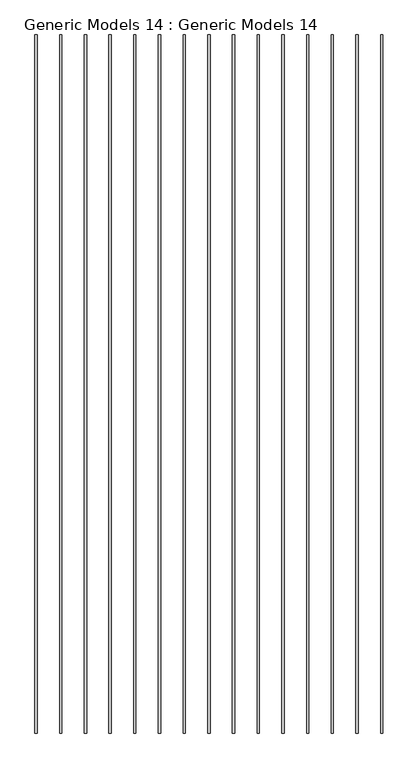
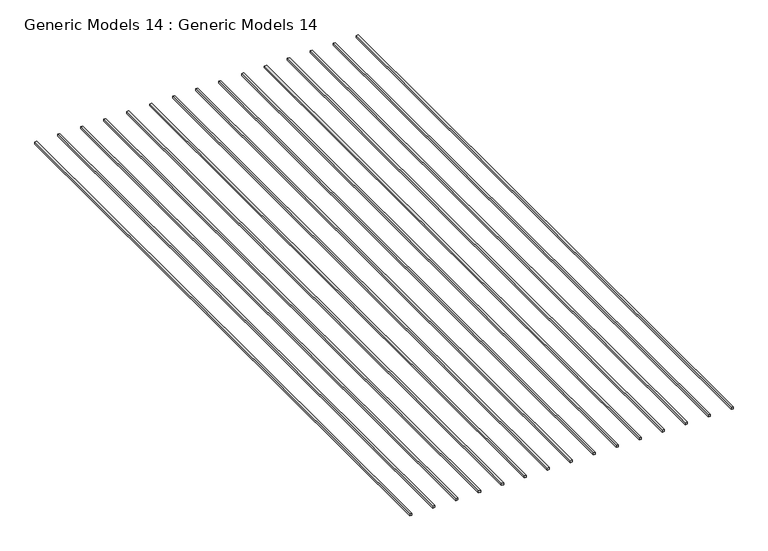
"""IFC4 building model written with IfcOpenShell, lengths in millimetres: proxy geometry, Generic Models 14 : Generic Models 14."""

from ifc_helpers import new_model, si_unit, frame, origin, place, context, project, spatial, polyline, outline, extrude, source, transform, mapped, element, save


def generic_models_14_generic_models_14_00bfee29(model_context):
    return source(origin(), model_context, "Body", "SweptSolid", [
        extrude(outline(polyline([(25045.3362243, 16205.264194), (25145.3362243, 16205.264194), (25145.3362243, -14894.735806), (25045.3362243, -14894.735806), (25045.3362243, 16205.264194)])), frame((0.0, 0.0, 5000.0), z_axis=(0.0, 0.0, 1.0), x_axis=(1.0, 0.0, 0.0)), (0.0, 0.0, 1.0), 100.0),
        extrude(outline(polyline([(23945.3362243, 16205.264194), (24045.3362243, 16205.264194), (24045.3362243, -14894.735806), (23945.3362243, -14894.735806), (23945.3362243, 16205.264194)])), frame((0.0, 0.0, 5000.0), z_axis=(0.0, 0.0, 1.0), x_axis=(1.0, 0.0, 0.0)), (0.0, 0.0, 1.0), 100.0),
        extrude(outline(polyline([(22845.3362243, 16205.264194), (22945.3362243, 16205.264194), (22945.3362243, -14894.735806), (22845.3362243, -14894.735806), (22845.3362243, 16205.264194)])), frame((0.0, 0.0, 5000.0), z_axis=(0.0, 0.0, 1.0), x_axis=(1.0, 0.0, 0.0)), (0.0, 0.0, 1.0), 100.0),
        extrude(outline(polyline([(21745.3362243, 16205.264194), (21845.3362243, 16205.264194), (21845.3362243, -14894.735806), (21745.3362243, -14894.735806), (21745.3362243, 16205.264194)])), frame((0.0, 0.0, 5000.0), z_axis=(0.0, 0.0, 1.0), x_axis=(1.0, 0.0, 0.0)), (0.0, 0.0, 1.0), 100.0),
        extrude(outline(polyline([(20645.3362243, 16205.264194), (20745.3362243, 16205.264194), (20745.3362243, -14894.735806), (20645.3362243, -14894.735806), (20645.3362243, 16205.264194)])), frame((0.0, 0.0, 5000.0), z_axis=(0.0, 0.0, 1.0), x_axis=(1.0, 0.0, 0.0)), (0.0, 0.0, 1.0), 100.0),
        extrude(outline(polyline([(19545.3362243, 16205.264194), (19645.3362243, 16205.264194), (19645.3362243, -14894.735806), (19545.3362243, -14894.735806), (19545.3362243, 16205.264194)])), frame((0.0, 0.0, 5000.0), z_axis=(0.0, 0.0, 1.0), x_axis=(1.0, 0.0, 0.0)), (0.0, 0.0, 1.0), 100.0),
        extrude(outline(polyline([(18445.3362243, 16205.264194), (18545.3362243, 16205.264194), (18545.3362243, -14894.735806), (18445.3362243, -14894.735806), (18445.3362243, 16205.264194)])), frame((0.0, 0.0, 5000.0), z_axis=(0.0, 0.0, 1.0), x_axis=(1.0, 0.0, 0.0)), (0.0, 0.0, 1.0), 100.0),
        extrude(outline(polyline([(17345.3362243, 16205.264194), (17445.3362243, 16205.264194), (17445.3362243, -14894.735806), (17345.3362243, -14894.735806), (17345.3362243, 16205.264194)])), frame((0.0, 0.0, 5000.0), z_axis=(0.0, 0.0, 1.0), x_axis=(1.0, 0.0, 0.0)), (0.0, 0.0, 1.0), 100.0),
        extrude(outline(polyline([(16245.3362243, 16205.264194), (16345.3362243, 16205.264194), (16345.3362243, -14894.735806), (16245.3362243, -14894.735806), (16245.3362243, 16205.264194)])), frame((0.0, 0.0, 5000.0), z_axis=(0.0, 0.0, 1.0), x_axis=(1.0, 0.0, 0.0)), (0.0, 0.0, 1.0), 100.0),
        extrude(outline(polyline([(15145.3362243, 16205.264194), (15245.3362243, 16205.264194), (15245.3362243, -14894.735806), (15145.3362243, -14894.735806), (15145.3362243, 16205.264194)])), frame((0.0, 0.0, 5000.0), z_axis=(0.0, 0.0, 1.0), x_axis=(1.0, 0.0, 0.0)), (0.0, 0.0, 1.0), 100.0),
        extrude(outline(polyline([(14045.3362243, 16205.264194), (14145.3362243, 16205.264194), (14145.3362243, -14894.735806), (14045.3362243, -14894.735806), (14045.3362243, 16205.264194)])), frame((0.0, 0.0, 5000.0), z_axis=(0.0, 0.0, 1.0), x_axis=(1.0, 0.0, 0.0)), (0.0, 0.0, 1.0), 100.0),
        extrude(outline(polyline([(12945.3362243, 16205.264194), (13045.3362243, 16205.264194), (13045.3362243, -14894.735806), (12945.3362243, -14894.735806), (12945.3362243, 16205.264194)])), frame((0.0, 0.0, 5000.0), z_axis=(0.0, 0.0, 1.0), x_axis=(1.0, 0.0, 0.0)), (0.0, 0.0, 1.0), 100.0),
        extrude(outline(polyline([(11845.3362243, 16205.264194), (11945.3362243, 16205.264194), (11945.3362243, -14894.735806), (11845.3362243, -14894.735806), (11845.3362243, 16205.264194)])), frame((0.0, 0.0, 5000.0), z_axis=(0.0, 0.0, 1.0), x_axis=(1.0, 0.0, 0.0)), (0.0, 0.0, 1.0), 100.0),
        extrude(outline(polyline([(10745.3362243, 16205.264194), (10845.3362243, 16205.264194), (10845.3362243, -14894.735806), (10745.3362243, -14894.735806), (10745.3362243, 16205.264194)])), frame((0.0, 0.0, 5000.0), z_axis=(0.0, 0.0, 1.0), x_axis=(1.0, 0.0, 0.0)), (0.0, 0.0, 1.0), 100.0),
        extrude(outline(polyline([(9645.3362243, 16205.264194), (9745.3362243, 16205.264194), (9745.3362243, -14894.735806), (9645.3362243, -14894.735806), (9645.3362243, 16205.264194)])), frame((0.0, 0.0, 5000.0), z_axis=(0.0, 0.0, 1.0), x_axis=(1.0, 0.0, 0.0)), (0.0, 0.0, 1.0), 100.0),
    ])


if __name__ == "__main__":
    model = new_model("IFC4")
    model_context = context("Model", 3, world=origin())
    ifc_project = project(units=[si_unit("LENGTHUNIT", "METRE", prefix="MILLI")], contexts=[model_context])
    site = spatial("IfcSite", under=ifc_project)
    building = spatial("IfcBuilding", under=site)
    placement = place(None, origin())
    generic_models_14_generic_models_14_shape = generic_models_14_generic_models_14_00bfee29(model_context)
    element("IfcBuildingElementProxy", 1, Name="Generic Models 14 : Generic Models 14", ObjectType="Generic Models 14 : Generic Models 14", at=placement, inside=building, context=model_context, shape_type="MappedRepresentation", body=[
        mapped(generic_models_14_generic_models_14_shape, transform((0.0, 0.0, 0.0), x_axis=(1.0, 0.0, 0.0), y_axis=(0.0, 1.0, 0.0), z_axis=(0.0, 0.0, 1.0))),
    ])
    save(model, "model.ifc")
